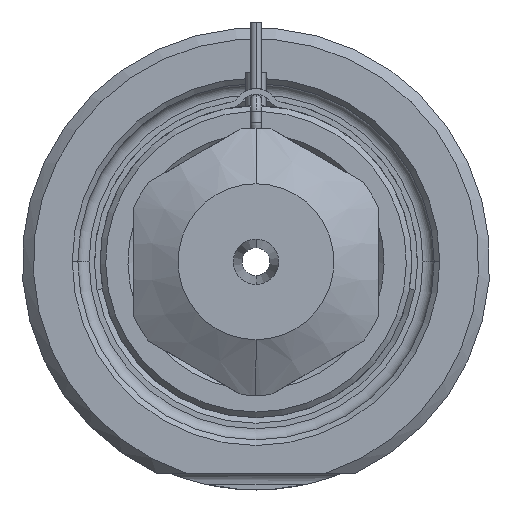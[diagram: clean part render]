
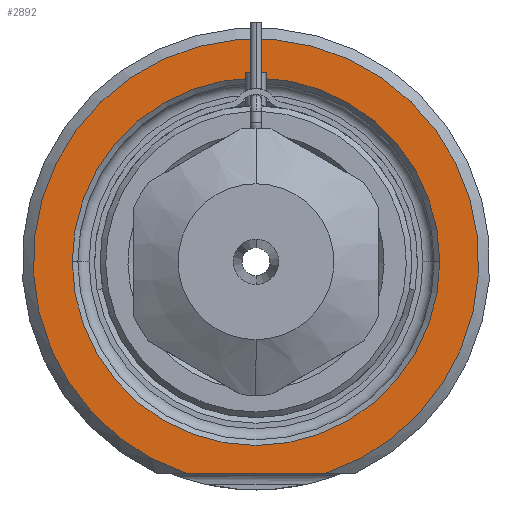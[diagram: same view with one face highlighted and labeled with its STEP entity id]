
A CAD part, front view. The second image highlights one B-rep face of the part: STEP entity #2892.
In plain terms, the highlighted planar face has unit normal (0, -1, 0).
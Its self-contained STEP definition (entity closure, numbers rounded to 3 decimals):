
#1=DIRECTION('',(1.,0.,0.));
#2=VECTOR('',#1,12.49);
#3=CARTESIAN_POINT('',(-6.245,0.,-19.));
#4=LINE('',#3,#2);
#5=CARTESIAN_POINT('',(0.,0.,0.));
#6=DIRECTION('',(0.,1.,0.));
#7=DIRECTION('',(-1.,0.,0.));
#8=AXIS2_PLACEMENT_3D('',#5,#6,#7);
#10=CARTESIAN_POINT('',(0.,0.,0.));
#11=DIRECTION('',(0.,1.,0.));
#12=DIRECTION('',(1.,0.,0.));
#13=AXIS2_PLACEMENT_3D('',#10,#11,#12);
#119=CARTESIAN_POINT('',(0.,0.,0.));
#120=DIRECTION('',(0.,-1.,0.));
#121=DIRECTION('',(0.312,0.,-0.95));
#122=AXIS2_PLACEMENT_3D('',#119,#120,#121);
#2412=CARTESIAN_POINT('',(-16.5,0.,0.));
#2413=CARTESIAN_POINT('',(16.5,0.,0.));
#2414=VERTEX_POINT('',#2412);
#2415=VERTEX_POINT('',#2413);
#2452=CARTESIAN_POINT('',(-6.245,0.,-19.));
#2453=CARTESIAN_POINT('',(6.245,0.,-19.));
#2454=VERTEX_POINT('',#2452);
#2455=VERTEX_POINT('',#2453);
#2875=CARTESIAN_POINT('',(0.,0.,0.));
#2876=DIRECTION('',(0.,-1.,0.));
#2877=DIRECTION('',(1.,0.,0.));
#2878=AXIS2_PLACEMENT_3D('',#2875,#2876,#2877);
#2879=PLANE('',#2878);
#2881=ORIENTED_EDGE('',*,*,#2880,.F.);
#2883=ORIENTED_EDGE('',*,*,#2882,.F.);
#2884=EDGE_LOOP('',(#2881,#2883));
#2885=FACE_OUTER_BOUND('',#2884,.F.);
#2887=ORIENTED_EDGE('',*,*,#2886,.F.);
#2889=ORIENTED_EDGE('',*,*,#2888,.F.);
#2890=EDGE_LOOP('',(#2887,#2889));
#2891=FACE_BOUND('',#2890,.F.);
#2892=ADVANCED_FACE('',(#2885,#2891),#2879,.T.);
#9=CIRCLE('',#8,16.5);
#14=CIRCLE('',#13,16.5);
#123=CIRCLE('',#122,20.);
#2880=EDGE_CURVE('',#2454,#2455,#4,.T.);
#2882=EDGE_CURVE('',#2455,#2454,#123,.T.);
#2886=EDGE_CURVE('',#2414,#2415,#9,.T.);
#2888=EDGE_CURVE('',#2415,#2414,#14,.T.);
